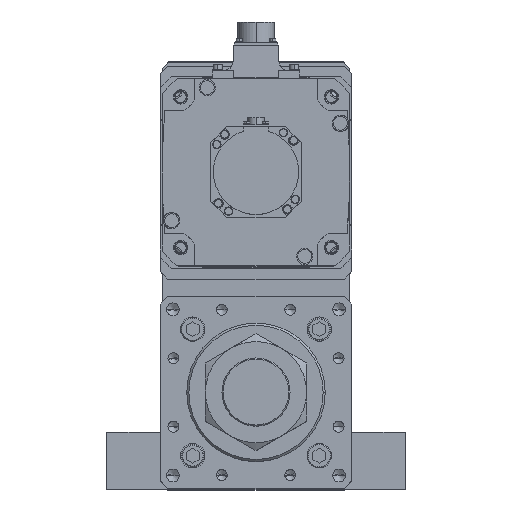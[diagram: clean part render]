
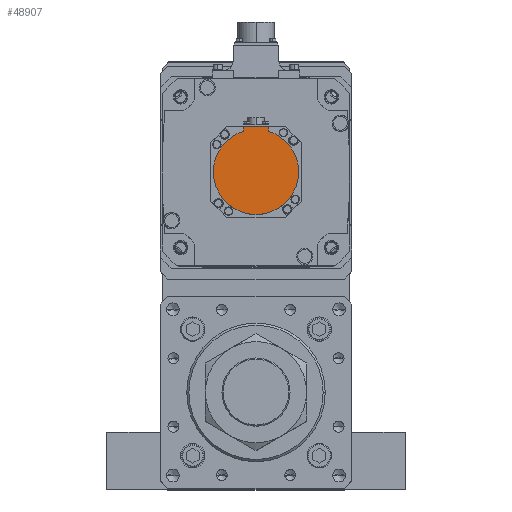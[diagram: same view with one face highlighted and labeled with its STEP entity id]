
A CAD part, top view. The second image highlights one B-rep face of the part: STEP entity #48907.
In plain terms, the highlighted planar face has unit normal (0, 0, 1) as drawn and (0, 0, -1) by its records, which use the part's own axes.
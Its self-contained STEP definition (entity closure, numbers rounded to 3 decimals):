
#610 = FACE_OUTER_BOUND ( 'NONE', #20662, .T. ) ;
#2130 = VECTOR ( 'NONE', #51289, 1000. ) ;
#4022 = CIRCLE ( 'NONE', #43966, 40. ) ;
#4226 = VERTEX_POINT ( 'NONE', #28083 ) ;
#4544 = PLANE ( 'NONE',  #39791 ) ;
#8925 = EDGE_CURVE ( 'NONE', #4226, #20178, #46070, .T. ) ;
#10368 = VECTOR ( 'NONE', #37218, 1000. ) ;
#10700 = DIRECTION ( 'NONE',  ( 1., 0., 0. ) ) ;
#15549 = EDGE_CURVE ( 'NONE', #4226, #48434, #48850, .T. ) ;
#16115 = CARTESIAN_POINT ( 'NONE',  ( -12., -38.158, -178.5 ) ) ;
#16695 = CARTESIAN_POINT ( 'NONE',  ( 0., 0., -178.5 ) ) ;
#19525 = CARTESIAN_POINT ( 'NONE',  ( -12., -42.5, -178.5 ) ) ;
#19661 = EDGE_CURVE ( 'NONE', #20178, #26702, #26127, .T. ) ;
#20144 = EDGE_CURVE ( 'NONE', #25474, #29471, #48103, .T. ) ;
#20178 = VERTEX_POINT ( 'NONE', #19525 ) ;
#20662 = EDGE_LOOP ( 'NONE', ( #25170, #48757, #22741, #43109, #21741, #27726 ) ) ;
#21741 = ORIENTED_EDGE ( 'NONE', *, *, #15549, .F. ) ;
#22181 = VECTOR ( 'NONE', #24716, 1000. ) ;
#22741 = ORIENTED_EDGE ( 'NONE', *, *, #20144, .F. ) ;
#23964 = DIRECTION ( 'NONE',  ( 0., 0., 1. ) ) ;
#24529 = CARTESIAN_POINT ( 'NONE',  ( -12., -40.329, -178.5 ) ) ;
#24681 = DIRECTION ( 'NONE',  ( 0., 0., 1. ) ) ;
#24716 = DIRECTION ( 'NONE',  ( 0., 1., 0. ) ) ;
#25170 = ORIENTED_EDGE ( 'NONE', *, *, #19661, .T. ) ;
#25474 = VERTEX_POINT ( 'NONE', #38422 ) ;
#26127 = LINE ( 'NONE', #24529, #22181 ) ;
#26702 = VERTEX_POINT ( 'NONE', #16115 ) ;
#27726 = ORIENTED_EDGE ( 'NONE', *, *, #8925, .T. ) ;
#27929 = DIRECTION ( 'NONE',  ( 0., 0., 1. ) ) ;
#28083 = CARTESIAN_POINT ( 'NONE',  ( 12., -42.5, -178.5 ) ) ;
#28150 = AXIS2_PLACEMENT_3D ( 'NONE', #44423, #27929, #10700 ) ;
#29228 = DIRECTION ( 'NONE',  ( 0., 0., 1. ) ) ;
#29370 = CARTESIAN_POINT ( 'NONE',  ( 0., -42.5, -178.5 ) ) ;
#29471 = VERTEX_POINT ( 'NONE', #46960 ) ;
#29548 = CARTESIAN_POINT ( 'NONE',  ( 0., -1.249, -178.5 ) ) ;
#30592 = EDGE_CURVE ( 'NONE', #29471, #26702, #4022, .T. ) ;
#34363 = AXIS2_PLACEMENT_3D ( 'NONE', #16695, #29228, #45726 ) ;
#37218 = DIRECTION ( 'NONE',  ( -1., 0., 0. ) ) ;
#38422 = CARTESIAN_POINT ( 'NONE',  ( 40., 0., -178.5 ) ) ;
#39791 = AXIS2_PLACEMENT_3D ( 'NONE', #29548, #24681, #53668 ) ;
#43109 = ORIENTED_EDGE ( 'NONE', *, *, #43773, .F. ) ;
#43153 = CARTESIAN_POINT ( 'NONE',  ( 12., -1.249, -178.5 ) ) ;
#43773 = EDGE_CURVE ( 'NONE', #48434, #25474, #52221, .T. ) ;
#43966 = AXIS2_PLACEMENT_3D ( 'NONE', #52621, #23964, #53152 ) ;
#44423 = CARTESIAN_POINT ( 'NONE',  ( 0., 0., -178.5 ) ) ;
#45726 = DIRECTION ( 'NONE',  ( 1., 0., 0. ) ) ;
#45995 = CARTESIAN_POINT ( 'NONE',  ( 12., -38.158, -178.5 ) ) ;
#46070 = LINE ( 'NONE', #29370, #10368 ) ;
#46960 = CARTESIAN_POINT ( 'NONE',  ( -40., 0., -178.5 ) ) ;
#48103 = CIRCLE ( 'NONE', #28150, 40. ) ;
#48434 = VERTEX_POINT ( 'NONE', #45995 ) ;
#48757 = ORIENTED_EDGE ( 'NONE', *, *, #30592, .F. ) ;
#48850 = LINE ( 'NONE', #43153, #2130 ) ;
#48907 = ADVANCED_FACE ( 'NONE', ( #610 ), #4544, .F. ) ;
#51289 = DIRECTION ( 'NONE',  ( 0., 1., 0. ) ) ;
#52221 = CIRCLE ( 'NONE', #34363, 40. ) ;
#52621 = CARTESIAN_POINT ( 'NONE',  ( 0., 0., -178.5 ) ) ;
#53152 = DIRECTION ( 'NONE',  ( 1., 0., 0. ) ) ;
#53668 = DIRECTION ( 'NONE',  ( 1., 0., 0. ) ) ;
